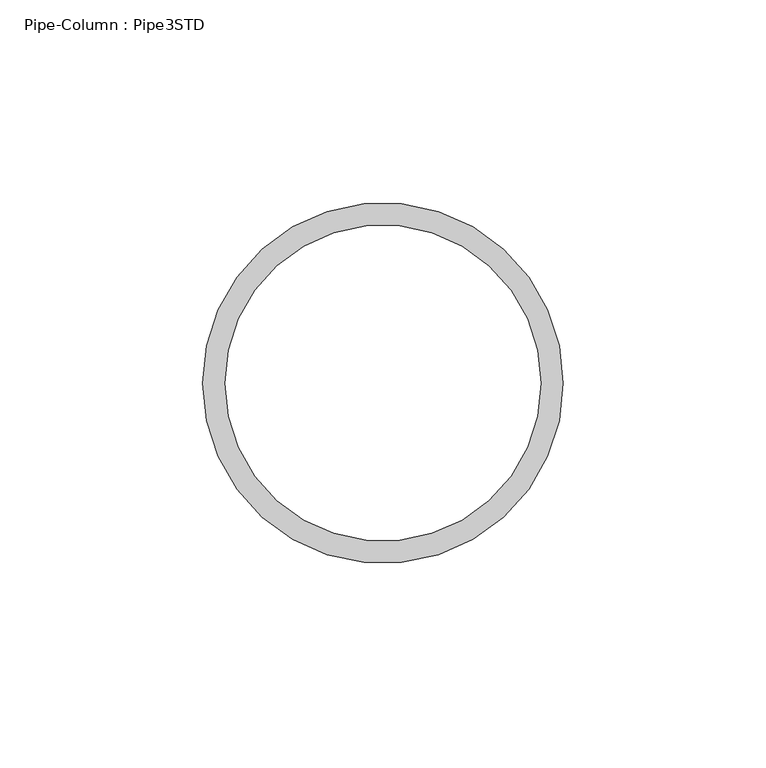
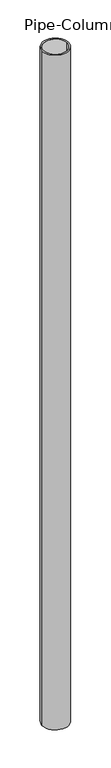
"""IFC4 building model written with IfcOpenShell, lengths in millimetres: column geometry, Pipe-Column : Pipe3STD."""

from ifc_helpers import new_model, si_unit, point, frame, origin, origin_2d, place, context, project, spatial, circle_curve, trimmed, segment, composite_curve, outline, extrude, source, transform, mapped, element, save


def pipe_column_pipe3std_db27e34c(model_context):
    return source(origin(), model_context, "Body", "SweptSolid", [
        extrude(outline(composite_curve([segment(trimmed(circle_curve(origin_2d(), 44.45), [point((-44.45, 0.0))], [point((44.45, 0.0))], False, "CARTESIAN"), True, "CONTINUOUS"), segment(trimmed(circle_curve(origin_2d(), 44.45), [point((44.45, 0.0))], [point((-44.45, 0.0))], False, "CARTESIAN"), True, "CONTINUOUS")], self_intersect=False), holes=[composite_curve([segment(trimmed(circle_curve(origin_2d(), 38.9636), [point((-38.9636, 0.0))], [point((38.9636, 0.0))], True, "CARTESIAN"), True, "CONTINUOUS"), segment(trimmed(circle_curve(origin_2d(), 38.9636), [point((38.9636, 0.0))], [point((-38.9636, 0.0))], True, "CARTESIAN"), True, "CONTINUOUS")], self_intersect=False)]), frame((0.0, 0.0, -2978.15), z_axis=(0.0, 0.0, 1.0), x_axis=(1.0, 0.0, 0.0)), (0.0, 0.0, 1.0), 2414.7859375),
    ])


if __name__ == "__main__":
    model = new_model("IFC4")
    model_context = context("Model", 3, world=origin())
    ifc_project = project(units=[si_unit("LENGTHUNIT", "METRE", prefix="MILLI")], contexts=[model_context])
    site = spatial("IfcSite", under=ifc_project)
    building = spatial("IfcBuilding", under=site)
    placement = place(None, origin())
    pipe_column_pipe3std_shape = pipe_column_pipe3std_db27e34c(model_context)
    element("IfcColumn", 1, ObjectType="Pipe-Column : Pipe3STD", at=placement, inside=building, context=model_context, shape_type="MappedRepresentation", body=[
        mapped(pipe_column_pipe3std_shape, transform((0.0, 0.0, 0.0), x_axis=(1.0, 0.0, 0.0), y_axis=(0.0, 1.0, 0.0), z_axis=(0.0, 0.0, 1.0))),
    ])
    save(model, "model.ifc")
